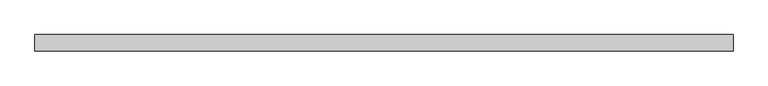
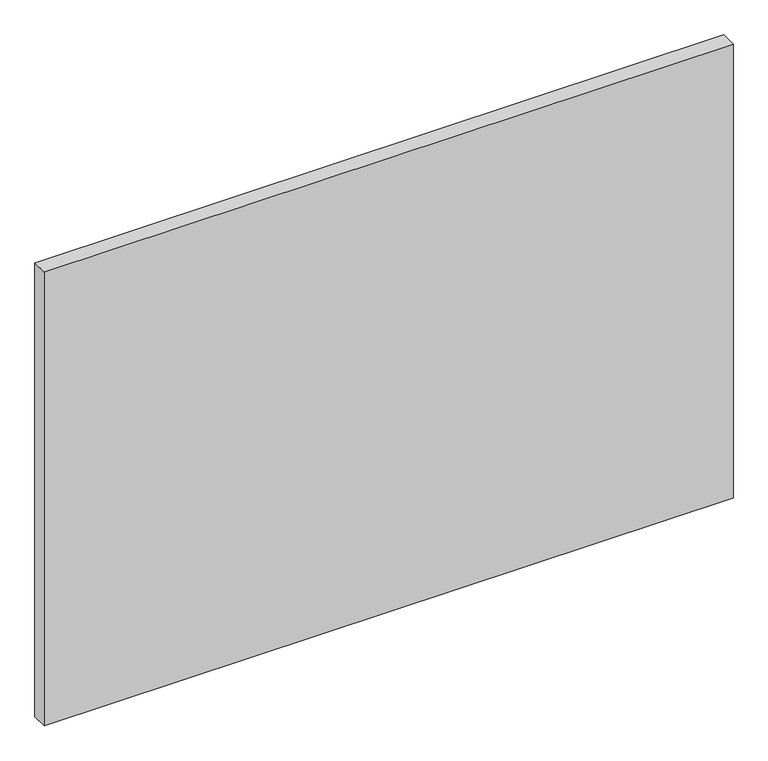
"""IFC4 building model written with IfcOpenShell, lengths in millimetres: plate geometry, Panneau système : Vitré."""

import ifcopenshell
import ifcopenshell.guid

model = None  # the IFC model being written
_history = None  # IfcOwnerHistory: only IFC2X3 demands one
_inside = {}  # id of a spatial element -> (the spatial element, [elements in it])
_under = {}  # id of a project, library or spatial element -> (it, [spatial elements below it])
_declared = {}  # id of a project -> (the project, [libraries it declares])
_typed = {}  # id of a type object -> (the type object, [elements of that type])
_made_of = {}  # id of a material, layer set ... -> (it, [elements and type objects made of it])


def new_model(schema):
    """Start an empty IFC model of exactly this schema.

    Asked for "IFC4X3", IfcOpenShell would pick the latest addendum, in which some entities
    have other attributes; the version numbers below select the first issue.
    IFC2X3 requires an IfcOwnerHistory on every rooted entity: one is made here for all.
    """
    global model, _history
    if schema == "IFC4X3":
        model = ifcopenshell.file(schema_version=(4, 3, 0, 0))
    else:
        model = ifcopenshell.file(schema=schema)
    _inside.clear()
    _under.clear()
    _declared.clear()
    _typed.clear()
    _made_of.clear()
    _history = None
    if model.schema == "IFC2X3":
        org = make("IfcOrganization", Name="unknown")
        user = make(
            "IfcPersonAndOrganization",
            ThePerson=make("IfcPerson", FamilyName="unknown"),
            TheOrganization=org,
        )
        app = make(
            "IfcApplication",
            ApplicationDeveloper=org,
            Version="unknown",
            ApplicationFullName="unknown",
            ApplicationIdentifier="unknown",
        )
        _history = make(
            "IfcOwnerHistory",
            OwningUser=user,
            OwningApplication=app,
            ChangeAction="ADDED",
            CreationDate=0,
        )
    return model


def make(cls, **values):
    """One entity of the class cls with the attributes given. An attribute that is None is left unset."""
    return model.create_entity(
        cls, **{name: value for name, value in values.items() if value is not None}
    )


def rooted(cls, **values):
    """An entity with a GlobalId (a new one), such as an element, a storey or a relation."""
    return make(cls, GlobalId=ifcopenshell.guid.new(), OwnerHistory=_history, **values)


def si_unit(unit_type, name, prefix=None):
    """IfcSIUnit, for example si_unit("LENGTHUNIT", "METRE", prefix="MILLI")."""
    return make("IfcSIUnit", UnitType=unit_type, Prefix=prefix, Name=name)


def assignment(units):
    """IfcUnitAssignment: the units of a project."""
    return None if units is None else make("IfcUnitAssignment", Units=units)


def point(xyz):
    """IfcCartesianPoint."""
    return None if xyz is None else make("IfcCartesianPoint", Coordinates=xyz)


def direction(xyz):
    """IfcDirection."""
    return None if xyz is None else make("IfcDirection", DirectionRatios=xyz)


def frame(location, z_axis=None, x_axis=None):
    """IfcAxis2Placement3D, a coordinate frame: its origin and axes. An axis left out is left unset."""
    return make(
        "IfcAxis2Placement3D",
        Location=point(location),
        Axis=direction(z_axis),
        RefDirection=direction(x_axis),
    )


def origin():
    """The frame at (0, 0, 0) with its axes left unset."""
    return frame((0.0, 0.0, 0.0))


def origin_with_axes():
    """The frame at (0, 0, 0) with the z axis (0, 0, 1) and the x axis (1, 0, 0) written out."""
    return frame((0.0, 0.0, 0.0), z_axis=(0.0, 0.0, 1.0), x_axis=(1.0, 0.0, 0.0))


def place(relative_to, where):
    """IfcLocalPlacement: puts the frame where relative to a parent placement (None: the world)."""
    return make(
        "IfcLocalPlacement", PlacementRelTo=relative_to, RelativePlacement=where
    )


def context(
    kind, dimensions, precision=None, world=None, true_north=None, identifier=None
):
    """IfcGeometricRepresentationContext, for example the 3D "Model" context."""
    return make(
        "IfcGeometricRepresentationContext",
        ContextIdentifier=identifier,
        ContextType=kind,
        CoordinateSpaceDimension=dimensions,
        Precision=precision,
        WorldCoordinateSystem=world,
        TrueNorth=true_north,
    )


def project(units=None, contexts=None):
    """IfcProject with its units and contexts."""
    return rooted(
        "IfcProject",
        Name="project",
        RepresentationContexts=contexts,
        UnitsInContext=assignment(units),
    )


def spatial(cls, under=None, at=None, **own):
    """A site, building, storey or space (cls), placed at a placement, below another one or the project."""
    s = rooted(cls, ObjectPlacement=at, **own)
    if under is not None:
        _under.setdefault(under.id(), (under, []))[1].append(s)
    return s


def polyline(points):
    """IfcPolyline through the points."""
    return make("IfcPolyline", Points=[point(p) for p in points])


def outline(outer, holes=None, kind="AREA"):
    """IfcArbitraryClosedProfileDef: a profile drawn as a closed curve; with holes, ...WithVoids."""
    if holes is None:
        return make("IfcArbitraryClosedProfileDef", ProfileType=kind, OuterCurve=outer)
    return make(
        "IfcArbitraryProfileDefWithVoids",
        ProfileType=kind,
        OuterCurve=outer,
        InnerCurves=holes,
    )


def extrude(swept, where, along, depth):
    """IfcExtrudedAreaSolid: the profile swept, set in the frame where, extruded along a direction by depth."""
    return make(
        "IfcExtrudedAreaSolid",
        SweptArea=swept,
        Position=where,
        ExtrudedDirection=direction(along),
        Depth=depth,
    )


def shape(context_of_items, identifier, shape_type, items):
    """IfcShapeRepresentation: the items that make up one representation, for example the "Body"."""
    return make(
        "IfcShapeRepresentation",
        ContextOfItems=context_of_items,
        RepresentationIdentifier=identifier,
        RepresentationType=shape_type,
        Items=items,
    )


def source(mapping_origin, context_of_items, identifier, shape_type, items):
    """IfcRepresentationMap: a shape defined once, which mapped items show again and again."""
    return make(
        "IfcRepresentationMap",
        MappingOrigin=mapping_origin,
        MappedRepresentation=shape(context_of_items, identifier, shape_type, items),
    )


def transform(
    local_origin,
    x_axis=None,
    y_axis=None,
    z_axis=None,
    scale=None,
    scale2=None,
    scale3=None,
    uniform=True,
):
    """IfcCartesianTransformationOperator3D, or its non-uniform kind. x_axis, y_axis, z_axis: its Axis1, 2, 3."""
    if uniform:
        return make(
            "IfcCartesianTransformationOperator3D",
            Axis1=direction(x_axis),
            Axis2=direction(y_axis),
            LocalOrigin=point(local_origin),
            Scale=scale,
            Axis3=direction(z_axis),
        )
    return make(
        "IfcCartesianTransformationOperator3DnonUniform",
        Axis1=direction(x_axis),
        Axis2=direction(y_axis),
        LocalOrigin=point(local_origin),
        Scale=scale,
        Axis3=direction(z_axis),
        Scale2=scale2,
        Scale3=scale3,
    )


def mapped(mapping_source, mapping_target):
    """IfcMappedItem: shows the shape of a source again, moved by a transform."""
    return make(
        "IfcMappedItem", MappingSource=mapping_source, MappingTarget=mapping_target
    )


def made_of(thing, what):
    """Note that an element or type object is made of a material, layer set ...; save() writes the relation."""
    if what is not None:
        _made_of.setdefault(what.id(), (what, []))[1].append(thing)
    return thing


def element(
    cls,
    number,
    at=None,
    inside=None,
    cuts=None,
    type_object=None,
    material=None,
    context=None,
    identifier="Body",
    shape_type=None,
    held_by="IfcProductDefinitionShape",
    body=None,
    shapes=None,
    **own,
):
    """One element of the class cls, such as IfcWall. Its Tag is "e" and its number.

    at: its placement. inside: the storey or other place that contains it. cuts: it is an
    opening in that element (IfcRelVoidsElement). A single representation is given by context,
    identifier, shape_type and body (its items); several are given by shapes. held_by: the class
    of the entity that holds the representations. save() writes the other relations.
    """
    e = rooted(cls, Tag="e%d" % number, ObjectPlacement=at, **own)
    if body is not None:
        shapes = [shape(context, identifier, shape_type, body)]
    if shapes is not None:
        e.Representation = make(held_by, Representations=shapes)
    if inside is not None:
        _inside.setdefault(inside.id(), (inside, []))[1].append(e)
    if cuts is not None:
        rooted(
            "IfcRelVoidsElement", RelatingBuildingElement=cuts, RelatedOpeningElement=e
        )
    if type_object is not None:
        _typed.setdefault(type_object.id(), (type_object, []))[1].append(e)
    return made_of(e, material)


def aggregate(whole, parts):
    """IfcRelAggregates: a whole, such as a stair, and the parts it consists of."""
    return rooted("IfcRelAggregates", RelatingObject=whole, RelatedObjects=parts)


def save(model, path):
    """Write the relations noted so far, then the file.

    IfcRelAggregates (storeys below a building ...), IfcRelContainedInSpatialStructure (elements
    in a storey), IfcRelDefinesByType, IfcRelAssociatesMaterial and IfcRelDeclares: one each for
    every whole, place, type object, material and project.
    """
    for whole, parts in _under.values():
        aggregate(whole, parts)
    for where, things in _inside.values():
        rooted(
            "IfcRelContainedInSpatialStructure",
            RelatedElements=things,
            RelatingStructure=where,
        )
    for kind, things in _typed.values():
        rooted("IfcRelDefinesByType", RelatedObjects=things, RelatingType=kind)
    for what, things in _made_of.values():
        rooted("IfcRelAssociatesMaterial", RelatedObjects=things, RelatingMaterial=what)
    for by, libraries in _declared.values():
        rooted("IfcRelDeclares", RelatingContext=by, RelatedDefinitions=libraries)
    model.write(path)


def plate_71a74d13(model_context):
    return source(origin(), model_context, "Body", "SweptSolid", [
        extrude(outline(polyline([(860.8752188, -45.0), (-860.8752188, -45.0), (-860.8752188, -5.0), (860.8752188, -5.0), (860.8752188, -45.0)])), origin_with_axes(), (0.0, 0.0, 1.0), 1200.0),
    ])


if __name__ == "__main__":
    model = new_model("IFC4")
    model_context = context("Model", 3, world=origin())
    ifc_project = project(units=[si_unit("LENGTHUNIT", "METRE", prefix="MILLI")], contexts=[model_context])
    site = spatial("IfcSite", under=ifc_project)
    building = spatial("IfcBuilding", under=site)
    placement = place(None, origin())
    plate_shape = plate_71a74d13(model_context)
    element("IfcPlate", 1, ObjectType="Panneau système : Vitré", at=placement, inside=building, context=model_context, shape_type="MappedRepresentation", body=[
        mapped(plate_shape, transform((0.0, 0.0, 0.0), x_axis=(1.0, 0.0, 0.0), y_axis=(0.0, 1.0, 0.0), z_axis=(0.0, 0.0, 1.0))),
    ])
    save(model, "model.ifc")
